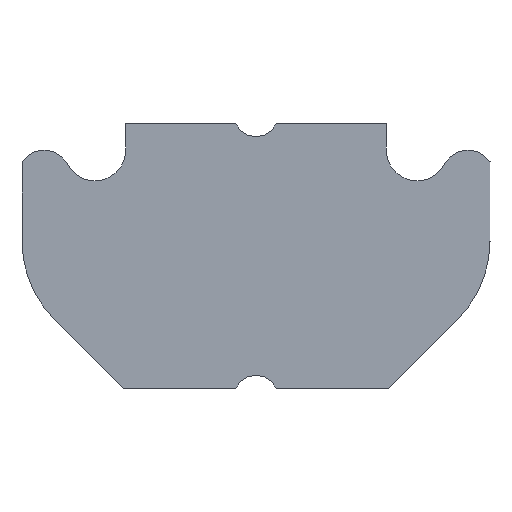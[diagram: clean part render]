
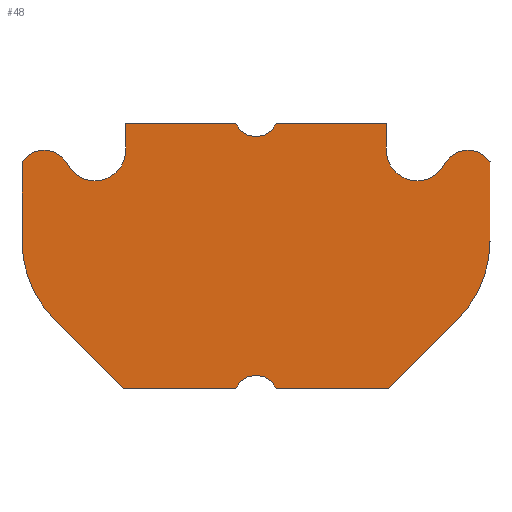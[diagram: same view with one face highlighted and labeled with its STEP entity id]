
A CAD part, left-side view. The second image highlights one B-rep face of the part: STEP entity #48.
In plain terms, the highlighted planar face has unit normal (-1, 0, 0).
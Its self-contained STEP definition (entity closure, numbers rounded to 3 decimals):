
#48 = ADVANCED_FACE( '', ( #72 ), #73, .F. );
#72 = FACE_OUTER_BOUND( '', #114, .T. );
#73 = PLANE( '', #115 );
#114 = EDGE_LOOP( '', ( #181, #182, #183, #184, #185, #186, #187, #188, #189, #190, #191, #192, #193, #194, #195, #196, #197, #198, #199 ) );
#115 = AXIS2_PLACEMENT_3D( '', #200, #201, #202 );
#181 = ORIENTED_EDGE( '', *, *, #351, .T. );
#182 = ORIENTED_EDGE( '', *, *, #352, .T. );
#183 = ORIENTED_EDGE( '', *, *, #353, .F. );
#184 = ORIENTED_EDGE( '', *, *, #354, .T. );
#185 = ORIENTED_EDGE( '', *, *, #355, .T. );
#186 = ORIENTED_EDGE( '', *, *, #356, .F. );
#187 = ORIENTED_EDGE( '', *, *, #357, .F. );
#188 = ORIENTED_EDGE( '', *, *, #358, .T. );
#189 = ORIENTED_EDGE( '', *, *, #348, .T. );
#190 = ORIENTED_EDGE( '', *, *, #359, .T. );
#191 = ORIENTED_EDGE( '', *, *, #360, .T. );
#192 = ORIENTED_EDGE( '', *, *, #361, .F. );
#193 = ORIENTED_EDGE( '', *, *, #362, .T. );
#194 = ORIENTED_EDGE( '', *, *, #363, .T. );
#195 = ORIENTED_EDGE( '', *, *, #364, .T. );
#196 = ORIENTED_EDGE( '', *, *, #365, .T. );
#197 = ORIENTED_EDGE( '', *, *, #366, .T. );
#198 = ORIENTED_EDGE( '', *, *, #367, .T. );
#199 = ORIENTED_EDGE( '', *, *, #368, .F. );
#200 = CARTESIAN_POINT( '', ( -400., 14.338, 19.05 ) );
#201 = DIRECTION( '', ( 1., 0., 0. ) );
#202 = DIRECTION( '', ( 0., 0., -1. ) );
#348 = EDGE_CURVE( '', #424, #425, #426, .F. );
#351 = EDGE_CURVE( '', #429, #430, #431, .T. );
#352 = EDGE_CURVE( '', #430, #432, #433, .T. );
#353 = EDGE_CURVE( '', #434, #432, #435, .F. );
#354 = EDGE_CURVE( '', #434, #436, #437, .T. );
#355 = EDGE_CURVE( '', #436, #438, #439, .T. );
#356 = EDGE_CURVE( '', #440, #438, #441, .F. );
#357 = EDGE_CURVE( '', #442, #440, #443, .T. );
#358 = EDGE_CURVE( '', #442, #424, #444, .T. );
#359 = EDGE_CURVE( '', #425, #445, #446, .T. );
#360 = EDGE_CURVE( '', #445, #447, #448, .T. );
#361 = EDGE_CURVE( '', #449, #447, #450, .F. );
#362 = EDGE_CURVE( '', #449, #451, #452, .T. );
#363 = EDGE_CURVE( '', #451, #453, #454, .T. );
#364 = EDGE_CURVE( '', #453, #455, #456, .F. );
#365 = EDGE_CURVE( '', #455, #457, #458, .T. );
#366 = EDGE_CURVE( '', #457, #459, #460, .T. );
#367 = EDGE_CURVE( '', #459, #461, #462, .F. );
#368 = EDGE_CURVE( '', #429, #461, #463, .F. );
#424 = VERTEX_POINT( '', #530 );
#425 = VERTEX_POINT( '', #531 );
#426 = CIRCLE( '', #532, 2.5 );
#429 = VERTEX_POINT( '', #537 );
#430 = VERTEX_POINT( '', #538 );
#431 = LINE( '', #539, #540 );
#432 = VERTEX_POINT( '', #541 );
#433 = LINE( '', #542, #543 );
#434 = VERTEX_POINT( '', #544 );
#435 = CIRCLE( '', #545, 0.5 );
#436 = VERTEX_POINT( '', #546 );
#437 = LINE( '', #547, #548 );
#438 = VERTEX_POINT( '', #549 );
#439 = LINE( '', #550, #551 );
#440 = VERTEX_POINT( '', #552 );
#441 = CIRCLE( '', #553, 0.7 );
#442 = VERTEX_POINT( '', #554 );
#443 = CIRCLE( '', #555, 0.6 );
#444 = LINE( '', #556, #557 );
#445 = VERTEX_POINT( '', #558 );
#446 = LINE( '', #559, #560 );
#447 = VERTEX_POINT( '', #561 );
#448 = LINE( '', #562, #563 );
#449 = VERTEX_POINT( '', #564 );
#450 = CIRCLE( '', #565, 0.5 );
#451 = VERTEX_POINT( '', #566 );
#452 = LINE( '', #567, #568 );
#453 = VERTEX_POINT( '', #569 );
#454 = LINE( '', #570, #571 );
#455 = VERTEX_POINT( '', #572 );
#456 = CIRCLE( '', #573, 2.5 );
#457 = VERTEX_POINT( '', #574 );
#458 = LINE( '', #575, #576 );
#459 = VERTEX_POINT( '', #577 );
#460 = LINE( '', #578, #579 );
#461 = VERTEX_POINT( '', #580 );
#462 = CIRCLE( '', #581, 0.6 );
#463 = CIRCLE( '', #582, 0.7 );
#530 = CARTESIAN_POINT( '', ( -400., 5.3, 0.336 ) );
#531 = CARTESIAN_POINT( '', ( -400., 4.568, -1.432 ) );
#532 = AXIS2_PLACEMENT_3D( '', #652, #653, #654 );
#537 = CARTESIAN_POINT( '', ( -400., -2.95, 2.4 ) );
#538 = CARTESIAN_POINT( '', ( -400., -2.95, 3. ) );
#539 = CARTESIAN_POINT( '', ( -400., -2.95, 4.001 ) );
#540 = VECTOR( '', #657, 1000. );
#541 = CARTESIAN_POINT( '', ( -400., -0.458, 3. ) );
#542 = CARTESIAN_POINT( '', ( -400., -5.3, 3. ) );
#543 = VECTOR( '', #658, 1000. );
#544 = CARTESIAN_POINT( '', ( -400., 0.458, 3. ) );
#545 = AXIS2_PLACEMENT_3D( '', #659, #660, #661 );
#546 = CARTESIAN_POINT( '', ( -400., 2.95, 3. ) );
#547 = CARTESIAN_POINT( '', ( -400., -5.3, 3. ) );
#548 = VECTOR( '', #662, 1000. );
#549 = CARTESIAN_POINT( '', ( -400., 2.95, 2.4 ) );
#550 = CARTESIAN_POINT( '', ( -400., 2.95, 2.4 ) );
#551 = VECTOR( '', #663, 1000. );
#552 = CARTESIAN_POINT( '', ( -400., 4.289, 2.115 ) );
#553 = AXIS2_PLACEMENT_3D( '', #664, #665, #666 );
#554 = CARTESIAN_POINT( '', ( -400., 5.3, 2.132 ) );
#555 = AXIS2_PLACEMENT_3D( '', #667, #668, #669 );
#556 = CARTESIAN_POINT( '', ( -400., 5.3, 3. ) );
#557 = VECTOR( '', #670, 1000. );
#558 = CARTESIAN_POINT( '', ( -400., 3., -3. ) );
#559 = CARTESIAN_POINT( '', ( -400., 3., -3. ) );
#560 = VECTOR( '', #671, 1000. );
#561 = CARTESIAN_POINT( '', ( -400., 0.458, -3. ) );
#562 = CARTESIAN_POINT( '', ( -400., 5.3, -3. ) );
#563 = VECTOR( '', #672, 1000. );
#564 = CARTESIAN_POINT( '', ( -400., -0.458, -3. ) );
#565 = AXIS2_PLACEMENT_3D( '', #673, #674, #675 );
#566 = CARTESIAN_POINT( '', ( -400., -3., -3. ) );
#567 = CARTESIAN_POINT( '', ( -400., 5.3, -3. ) );
#568 = VECTOR( '', #676, 1000. );
#569 = CARTESIAN_POINT( '', ( -400., -4.568, -1.432 ) );
#570 = CARTESIAN_POINT( '', ( -400., -3., -3. ) );
#571 = VECTOR( '', #677, 1000. );
#572 = CARTESIAN_POINT( '', ( -400., -5.3, 0.336 ) );
#573 = AXIS2_PLACEMENT_3D( '', #678, #679, #680 );
#574 = CARTESIAN_POINT( '', ( -400., -5.3, 2.132 ) );
#575 = CARTESIAN_POINT( '', ( -400., -5.3, -3. ) );
#576 = VECTOR( '', #681, 1000. );
#577 = CARTESIAN_POINT( '', ( -400., -5.3, 2.132 ) );
#578 = CARTESIAN_POINT( '', ( -400., -5.3, 2.132 ) );
#579 = VECTOR( '', #682, 1000. );
#580 = CARTESIAN_POINT( '', ( -400., -4.289, 2.115 ) );
#581 = AXIS2_PLACEMENT_3D( '', #683, #684, #685 );
#582 = AXIS2_PLACEMENT_3D( '', #686, #687, #688 );
#652 = CARTESIAN_POINT( '', ( -400., 2.8, 0.336 ) );
#653 = DIRECTION( '', ( 1., 0., 0. ) );
#654 = DIRECTION( '', ( 0., 0., -1. ) );
#657 = DIRECTION( '', ( 0., 0., 1. ) );
#658 = DIRECTION( '', ( 0., 1., 0. ) );
#659 = CARTESIAN_POINT( '', ( -400., 0., 3.2 ) );
#660 = DIRECTION( '', ( 1., 0., 0. ) );
#661 = DIRECTION( '', ( 0., 0., -1. ) );
#662 = DIRECTION( '', ( 0., 1., 0. ) );
#663 = DIRECTION( '', ( 0., 0., -1. ) );
#664 = CARTESIAN_POINT( '', ( -400., 3.65, 2.4 ) );
#665 = DIRECTION( '', ( 1., 0., 0. ) );
#666 = DIRECTION( '', ( 0., 0., -1. ) );
#667 = CARTESIAN_POINT( '', ( -400., 4.8, 1.8 ) );
#668 = DIRECTION( '', ( 1., 0., 0. ) );
#669 = DIRECTION( '', ( 0., 0., -1. ) );
#670 = DIRECTION( '', ( 0., 0., -1. ) );
#671 = DIRECTION( '', ( 0., -0.707, -0.707 ) );
#672 = DIRECTION( '', ( 0., -1., 0. ) );
#673 = CARTESIAN_POINT( '', ( -400., 0., -3.2 ) );
#674 = DIRECTION( '', ( 1., 0., 0. ) );
#675 = DIRECTION( '', ( 0., 0., -1. ) );
#676 = DIRECTION( '', ( 0., -1., 0. ) );
#677 = DIRECTION( '', ( 0., -0.707, 0.707 ) );
#678 = CARTESIAN_POINT( '', ( -400., -2.8, 0.336 ) );
#679 = DIRECTION( '', ( 1., 0., 0. ) );
#680 = DIRECTION( '', ( 0., 0., -1. ) );
#681 = DIRECTION( '', ( 0., 0., 1. ) );
#682 = DIRECTION( '', ( 0., 0.569, -0.822 ) );
#683 = CARTESIAN_POINT( '', ( -400., -4.8, 1.8 ) );
#684 = DIRECTION( '', ( 1., 0., 0. ) );
#685 = DIRECTION( '', ( 0., 0., -1. ) );
#686 = CARTESIAN_POINT( '', ( -400., -3.65, 2.4 ) );
#687 = DIRECTION( '', ( 1., 0., 0. ) );
#688 = DIRECTION( '', ( 0., 0., -1. ) );
